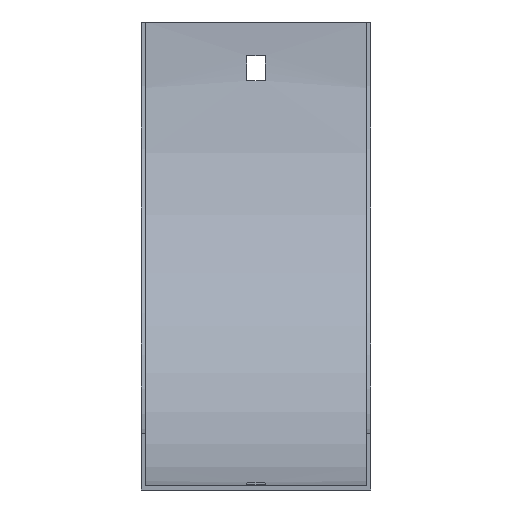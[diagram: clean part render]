
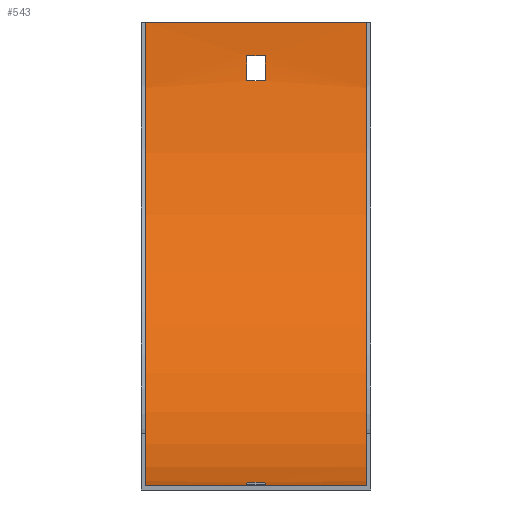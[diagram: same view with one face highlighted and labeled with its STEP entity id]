
A CAD part, front view. The second image highlights one B-rep face of the part: STEP entity #543.
In plain terms, the highlighted cylindrical face has radius 165.5 mm (diameter 331 mm), a partial arc.
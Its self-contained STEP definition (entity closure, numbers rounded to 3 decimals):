
#4 = DIRECTION ( 'NONE',  ( 1., 0., 0. ) ) ;
#5 = LINE ( 'NONE', #237, #438 ) ;
#17 = DIRECTION ( 'NONE',  ( -1., 0., 0. ) ) ;
#29 = ORIENTED_EDGE ( 'NONE', *, *, #176, .F. ) ;
#30 = DIRECTION ( 'NONE',  ( -1., 0., 0. ) ) ;
#50 = CARTESIAN_POINT ( 'NONE',  ( 3.25, -167., 0. ) ) ;
#52 = AXIS2_PLACEMENT_3D ( 'NONE', #146, #572, #92 ) ;
#62 = DIRECTION ( 'NONE',  ( 0., 0., 1. ) ) ;
#64 = AXIS2_PLACEMENT_3D ( 'NONE', #429, #17, #385 ) ;
#70 = DIRECTION ( 'NONE',  ( 1., 0., 0. ) ) ;
#71 = EDGE_CURVE ( 'NONE', #408, #549, #255, .T. ) ;
#73 = EDGE_CURVE ( 'NONE', #80, #123, #393, .T. ) ;
#80 = VERTEX_POINT ( 'NONE', #185 ) ;
#89 = CIRCLE ( 'NONE', #214, 165.5 ) ;
#92 = DIRECTION ( 'NONE',  ( 0., 0., -1. ) ) ;
#106 = CARTESIAN_POINT ( 'NONE',  ( -3.25, -167., 0. ) ) ;
#107 = EDGE_LOOP ( 'NONE', ( #431, #598, #152, #351 ) ) ;
#112 = EDGE_CURVE ( 'NONE', #538, #272, #271, .T. ) ;
#114 = LINE ( 'NONE', #565, #396 ) ;
#115 = AXIS2_PLACEMENT_3D ( 'NONE', #522, #413, #192 ) ;
#118 = EDGE_CURVE ( 'NONE', #477, #538, #375, .T. ) ;
#122 = LINE ( 'NONE', #305, #228 ) ;
#123 = VERTEX_POINT ( 'NONE', #200 ) ;
#126 = VERTEX_POINT ( 'NONE', #414 ) ;
#135 = VECTOR ( 'NONE', #603, 1000. ) ;
#136 = EDGE_CURVE ( 'NONE', #138, #477, #89, .T. ) ;
#138 = VERTEX_POINT ( 'NONE', #336 ) ;
#146 = CARTESIAN_POINT ( 'NONE',  ( 3.25, -167., 0. ) ) ;
#147 = ORIENTED_EDGE ( 'NONE', *, *, #225, .F. ) ;
#149 = LINE ( 'NONE', #284, #169 ) ;
#150 = DIRECTION ( 'NONE',  ( 1., 0., 0. ) ) ;
#152 = ORIENTED_EDGE ( 'NONE', *, *, #560, .T. ) ;
#161 = FACE_BOUND ( 'NONE', #319, .T. ) ;
#164 = AXIS2_PLACEMENT_3D ( 'NONE', #476, #463, #248 ) ;
#166 = CARTESIAN_POINT ( 'NONE',  ( 39.5, -1.5, 0. ) ) ;
#169 = VECTOR ( 'NONE', #469, 1000. ) ;
#176 = EDGE_CURVE ( 'NONE', #437, #126, #5, .T. ) ;
#185 = CARTESIAN_POINT ( 'NONE',  ( -3.25, -1.936, -12. ) ) ;
#191 = CARTESIAN_POINT ( 'NONE',  ( 3.25, -155., -165.064 ) ) ;
#192 = DIRECTION ( 'NONE',  ( 0., 0., 1. ) ) ;
#200 = CARTESIAN_POINT ( 'NONE',  ( -3.25, -2.838, -21. ) ) ;
#214 = AXIS2_PLACEMENT_3D ( 'NONE', #50, #380, #277 ) ;
#222 = CIRCLE ( 'NONE', #115, 165.5 ) ;
#225 = EDGE_CURVE ( 'NONE', #123, #408, #434, .T. ) ;
#228 = VECTOR ( 'NONE', #30, 1000. ) ;
#235 = EDGE_LOOP ( 'NONE', ( #443, #29, #593, #605 ) ) ;
#237 = CARTESIAN_POINT ( 'NONE',  ( 39.5, -167., -165.5 ) ) ;
#248 = DIRECTION ( 'NONE',  ( 0., 0., -1. ) ) ;
#255 = CIRCLE ( 'NONE', #52, 165.5 ) ;
#257 = FACE_BOUND ( 'NONE', #107, .T. ) ;
#271 = CIRCLE ( 'NONE', #164, 165.5 ) ;
#272 = VERTEX_POINT ( 'NONE', #296 ) ;
#274 = DIRECTION ( 'NONE',  ( 0., 0., 1. ) ) ;
#276 = EDGE_CURVE ( 'NONE', #437, #588, #222, .T. ) ;
#277 = DIRECTION ( 'NONE',  ( 0., 0., 1. ) ) ;
#282 = AXIS2_PLACEMENT_3D ( 'NONE', #106, #461, #274 ) ;
#284 = CARTESIAN_POINT ( 'NONE',  ( 41., -1.936, -12. ) ) ;
#289 = CARTESIAN_POINT ( 'NONE',  ( 41., -155., -165.064 ) ) ;
#296 = CARTESIAN_POINT ( 'NONE',  ( -3.25, -146., -164.162 ) ) ;
#301 = EDGE_CURVE ( 'NONE', #549, #80, #149, .T. ) ;
#305 = CARTESIAN_POINT ( 'NONE',  ( 39.5, -1.5, 0. ) ) ;
#319 = EDGE_LOOP ( 'NONE', ( #533, #353, #482, #147 ) ) ;
#331 = CARTESIAN_POINT ( 'NONE',  ( -3.25, -155., -165.064 ) ) ;
#334 = CARTESIAN_POINT ( 'NONE',  ( 3.25, -2.838, -21. ) ) ;
#336 = CARTESIAN_POINT ( 'NONE',  ( 3.25, -146., -164.162 ) ) ;
#337 = VERTEX_POINT ( 'NONE', #350 ) ;
#343 = EDGE_CURVE ( 'NONE', #588, #337, #122, .T. ) ;
#350 = CARTESIAN_POINT ( 'NONE',  ( -39.5, -1.5, 0. ) ) ;
#351 = ORIENTED_EDGE ( 'NONE', *, *, #136, .T. ) ;
#353 = ORIENTED_EDGE ( 'NONE', *, *, #301, .F. ) ;
#375 = LINE ( 'NONE', #289, #135 ) ;
#380 = DIRECTION ( 'NONE',  ( -1., 0., 0. ) ) ;
#385 = DIRECTION ( 'NONE',  ( 0., 0., 1. ) ) ;
#393 = CIRCLE ( 'NONE', #282, 165.5 ) ;
#396 = VECTOR ( 'NONE', #70, 1000. ) ;
#408 = VERTEX_POINT ( 'NONE', #334 ) ;
#413 = DIRECTION ( 'NONE',  ( 1., 0., 0. ) ) ;
#414 = CARTESIAN_POINT ( 'NONE',  ( -39.5, -167., -165.5 ) ) ;
#418 = CARTESIAN_POINT ( 'NONE',  ( -39.5, -167., 0. ) ) ;
#429 = CARTESIAN_POINT ( 'NONE',  ( 41., -167., 0. ) ) ;
#431 = ORIENTED_EDGE ( 'NONE', *, *, #118, .T. ) ;
#434 = LINE ( 'NONE', #478, #439 ) ;
#437 = VERTEX_POINT ( 'NONE', #465 ) ;
#438 = VECTOR ( 'NONE', #499, 1000. ) ;
#439 = VECTOR ( 'NONE', #4, 1000. ) ;
#443 = ORIENTED_EDGE ( 'NONE', *, *, #493, .F. ) ;
#461 = DIRECTION ( 'NONE',  ( -1., 0., 0. ) ) ;
#463 = DIRECTION ( 'NONE',  ( 1., 0., 0. ) ) ;
#465 = CARTESIAN_POINT ( 'NONE',  ( 39.5, -167., -165.5 ) ) ;
#469 = DIRECTION ( 'NONE',  ( -1., 0., 0. ) ) ;
#476 = CARTESIAN_POINT ( 'NONE',  ( -3.25, -167., 0. ) ) ;
#477 = VERTEX_POINT ( 'NONE', #191 ) ;
#478 = CARTESIAN_POINT ( 'NONE',  ( 41., -2.838, -21. ) ) ;
#481 = CARTESIAN_POINT ( 'NONE',  ( 3.25, -1.936, -12. ) ) ;
#482 = ORIENTED_EDGE ( 'NONE', *, *, #71, .F. ) ;
#493 = EDGE_CURVE ( 'NONE', #126, #337, #504, .T. ) ;
#499 = DIRECTION ( 'NONE',  ( -1., 0., 0. ) ) ;
#504 = CIRCLE ( 'NONE', #550, 165.5 ) ;
#513 = FACE_OUTER_BOUND ( 'NONE', #235, .T. ) ;
#522 = CARTESIAN_POINT ( 'NONE',  ( 39.5, -167., 0. ) ) ;
#533 = ORIENTED_EDGE ( 'NONE', *, *, #73, .F. ) ;
#538 = VERTEX_POINT ( 'NONE', #331 ) ;
#543 = ADVANCED_FACE ( 'NONE', ( #161, #513, #257 ), #585, .F. ) ;
#549 = VERTEX_POINT ( 'NONE', #481 ) ;
#550 = AXIS2_PLACEMENT_3D ( 'NONE', #418, #150, #62 ) ;
#560 = EDGE_CURVE ( 'NONE', #272, #138, #114, .T. ) ;
#565 = CARTESIAN_POINT ( 'NONE',  ( 41., -146., -164.162 ) ) ;
#572 = DIRECTION ( 'NONE',  ( 1., 0., 0. ) ) ;
#585 = CYLINDRICAL_SURFACE ( 'NONE', #64, 165.5 ) ;
#588 = VERTEX_POINT ( 'NONE', #166 ) ;
#593 = ORIENTED_EDGE ( 'NONE', *, *, #276, .T. ) ;
#598 = ORIENTED_EDGE ( 'NONE', *, *, #112, .T. ) ;
#603 = DIRECTION ( 'NONE',  ( -1., 0., 0. ) ) ;
#605 = ORIENTED_EDGE ( 'NONE', *, *, #343, .T. ) ;
